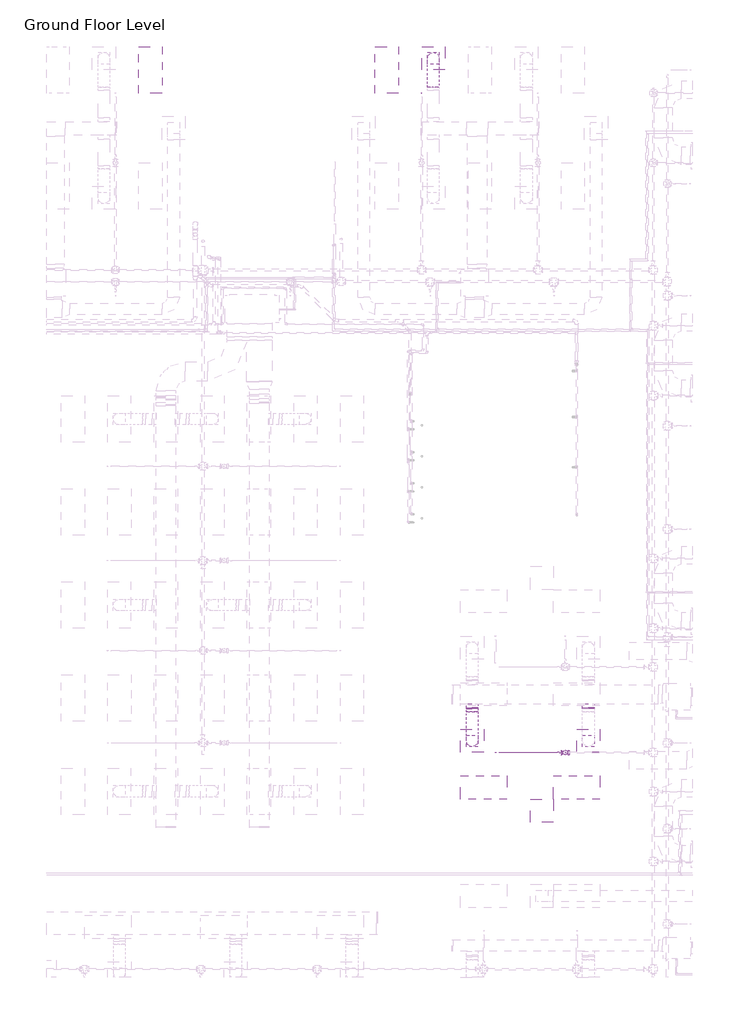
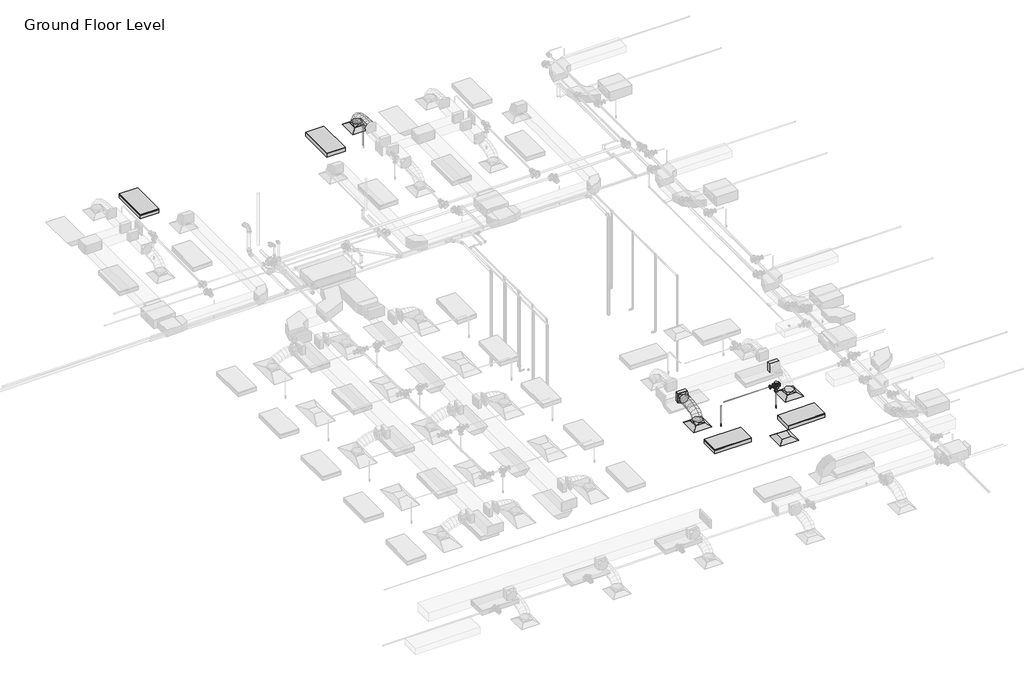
# One storey, part 59 of 74: 6 duct fittings, 4 air terminals, 4 duct segments, 4 light fixtures, 4 pipe segments, 3 pipe fittings, 2 fire suppression terminals.
"""IFC4 building model written with IfcOpenShell, lengths in millimetres."""

from ifc_helpers import new_model, si_unit, point, frame, frame_2d, origin, place, context, project, spatial, polyline, circle_curve, ellipse_curve, trimmed, segment, composite_curve, outline, extrude, transform, mapped, element, save
from ifc_brep_helpers import plane_surface, cylinder_surface, advanced_brep
from components import m_return_diffuser_600_x_600_face_300_x_300_connection_ff221211, m_rectangular_takeoff_standard_cb0ccb98, m_rectangular_to_round_transition_angle_45_degree_641efff0, m_sprinkler_dry_pendent_hosted_15_mm_dry_pendent_9bda8e11, m_troffer_light_parabolic_rectangular1_0600x1200mm_4_lamp_86473d4a, m_reducer_flanged_cs_class_150_standard_ccf252ad, m_tee_round_base_flanged_cs_class_150_standard_7e5987a1

model = new_model("IFC4")

# Units and contexts
model_context = context("Model", 3, world=origin())
ifc_project = project(units=[si_unit("LENGTHUNIT", "METRE", prefix="MILLI")], contexts=[model_context])

# Site, building, storey
site = spatial("IfcSite", under=ifc_project)
building = spatial("IfcBuilding", under=site)
storey = spatial("IfcBuildingStorey", under=building, Name="Ground Floor Level", Elevation=900.0)

# Air terminals
placement = place(None, origin())
m_return_diffuser_600_x_600_face_300_x_300_connection_shape = m_return_diffuser_600_x_600_face_300_x_300_connection_ff221211(model_context)
element("IfcAirTerminal", 1, ObjectType="M_Return Diffuser : 600 x 600 Face 300 x 300 Connection", at=placement, inside=storey, context=model_context, shape_type="MappedRepresentation", body=[
    mapped(m_return_diffuser_600_x_600_face_300_x_300_connection_shape, transform((2762.7672395, 1135.2153534, 3650.0), x_axis=(1.0, 0.0, 0.0), y_axis=(0.0, 1.0, 0.0), z_axis=(0.0, 0.0, 1.0))),
])
element("IfcAirTerminal", 2, ObjectType="M_Supply Diffuser : 600 x 600 Face 300 x 300 Connection", at=placement, inside=storey, context=model_context, shape_type="MappedRepresentation", body=[
    mapped(m_return_diffuser_600_x_600_face_300_x_300_connection_shape, transform((-37.2327605, 20535.2153534, 3650.0), x_axis=(1.0, 0.0, 0.0), y_axis=(0.0, 1.0, 0.0), z_axis=(0.0, 0.0, 1.0))),
])
element("IfcAirTerminal", 3, ObjectType="M_Supply Diffuser : 600 x 600 Face 300 x 300 Connection", at=placement, inside=storey, context=model_context, shape_type="MappedRepresentation", body=[
    mapped(m_return_diffuser_600_x_600_face_300_x_300_connection_shape, transform((962.7672395, 2935.2153534, 3650.0), x_axis=(1.0, 0.0, 0.0), y_axis=(0.0, 1.0, 0.0), z_axis=(0.0, 0.0, 1.0))),
])
element("IfcAirTerminal", 4, ObjectType="M_Supply Diffuser : 600 x 600 Face 300 x 300 Connection", at=placement, inside=storey, context=model_context, shape_type="MappedRepresentation", body=[
    mapped(m_return_diffuser_600_x_600_face_300_x_300_connection_shape, transform((3962.7672395, 2935.2153534, 3650.0), x_axis=(1.0, 0.0, 0.0), y_axis=(0.0, 1.0, 0.0), z_axis=(0.0, 0.0, 1.0))),
])

# Duct fittings
m_rectangular_takeoff_standard_shape = m_rectangular_takeoff_standard_cb0ccb98(model_context)
element("IfcDuctFitting", 5, ObjectType="M_Rectangular Takeoff : Standard", at=placement, inside=storey, context=model_context, shape_type="MappedRepresentation", body=[
    mapped(m_rectangular_takeoff_standard_shape, transform((962.7672395, 3885.0199167, 4099.9886676), x_axis=(0.0, -1.0, 0.0), y_axis=(-1.0, 0.0, 0.0), z_axis=(0.0, 0.0, -1.0))),
])
element("IfcDuctFitting", 6, ObjectType="M_Rectangular Takeoff : Standard", at=placement, inside=storey, context=model_context, shape_type="MappedRepresentation", body=[
    mapped(m_rectangular_takeoff_standard_shape, transform((3962.7672395, 3885.0199167, 4099.9957478), x_axis=(0.0, -1.0, 0.0), y_axis=(-1.0, 0.0, 0.0), z_axis=(0.0, 0.0, -1.0))),
])
m_rectangular_to_round_transition_angle_45_degree_shape = m_rectangular_to_round_transition_angle_45_degree_641efff0(model_context)
element("IfcDuctFitting", 7, ObjectType="M_Rectangular to Round Transition - Angle : 45 Degree", at=placement, inside=storey, context=model_context, shape_type="MappedRepresentation", body=[
    mapped(m_rectangular_to_round_transition_angle_45_degree_shape, transform((-37.2327605, 20535.2153534, 3751.6), x_axis=(0.0, 0.0, 1.0), y_axis=(-1.0, 0.0, 0.0), z_axis=(0.0, -1.0, 0.0))),
])
element("IfcDuctFitting", 8, ObjectType="M_Rectangular to Round Transition - Angle : 45 Degree", at=placement, inside=storey, context=model_context, shape_type="MappedRepresentation", body=[
    mapped(m_rectangular_to_round_transition_angle_45_degree_shape, transform((3962.7672395, 2935.2153534, 3751.6), x_axis=(0.0, 0.0, 1.0), y_axis=(-1.0, 0.0, 0.0), z_axis=(0.0, -1.0, 0.0))),
])
element("IfcDuctFitting", 9, ObjectType="M_Rectangular to Round Transition - Angle : 45 Degree", at=placement, inside=storey, context=model_context, shape_type="MappedRepresentation", body=[
    mapped(m_rectangular_to_round_transition_angle_45_degree_shape, transform((962.7672395, 2935.2153534, 3751.6), x_axis=(0.0, 0.0, 1.0), y_axis=(-1.0, 0.0, 0.0), z_axis=(0.0, -1.0, 0.0))),
])
element("IfcDuctFitting", 10, ObjectType="M_Rectangular to Round Transition - Angle : 45 Degree", at=placement, inside=storey, context=model_context, shape_type="MappedRepresentation", body=[
    mapped(m_rectangular_to_round_transition_angle_45_degree_shape, transform((962.7672395, 3762.562617, 4099.9886676), x_axis=(0.0, -1.0, 0.0), y_axis=(1.0, 0.0, 0.0), z_axis=(0.0, 0.0, 1.0))),
])

# Duct segments
element("IfcDuctSegment", 11, ObjectType="Flex - Round", at=placement, inside=storey, context=model_context, shape_type="AdvancedBrep", body=[
    advanced_brep(
    [(112.7672395, 20535.2153534, 3826.6), (-37.2327605, 20385.2153534, 3826.6), (-187.2327605, 20535.2153534, 3826.6), (-37.2327605, 20685.2153534, 3826.6), (112.7672395, 20535.2153534, 3857.9377711), (-37.2327605, 20385.2153534, 3832.2944759), (-187.2327605, 20535.2153534, 3857.9377711), (-37.2327605, 20685.2153534, 3883.5810662), (112.7672395, 20518.1993815, 3906.2505987), (-37.2327605, 20384.461492, 3834.4348871), (-187.2327605, 20518.1993815, 3906.2505987), (-37.2327605, 20651.937271, 3978.0663103), (112.7672395, 20471.0153939, 3968.7112481), (-37.2327605, 20366.8097377, 3857.8017132), (-187.2327605, 20471.0153939, 3968.7112481), (-37.2327605, 20575.2210501, 4079.620783), (112.7672395, 20399.4592831, 4016.0698216), (-37.2327605, 20330.5256105, 3881.8159377), (-187.2327605, 20399.4592831, 4016.0698216), (-37.2327605, 20468.3929557, 4150.3237055), (112.7672395, 20309.3269414, 4050.4141926), (-37.2327605, 20265.7665969, 3906.491959), (-187.2327605, 20309.3269414, 4050.4141926), (-37.2327605, 20352.8872859, 4194.3364261), (112.7672395, 20206.4142611, 4073.8322345), (-37.2327605, 20179.853734, 3926.0416493), (-187.2327605, 20206.4142611, 4073.8322345), (-37.2327605, 20232.9747882, 4221.6228196), (112.7672395, 20096.5171347, 4088.4118207), (-37.2327605, 20081.3665773, 3939.1075232), (-187.2327605, 20096.5171347, 4088.4118207), (-37.2327605, 20111.6676921, 4237.7161183), (112.7672395, 19985.4314545, 4096.2408248), (-37.2327605, 19977.9263947, 3946.3976942), (-187.2327605, 19985.4314545, 4096.2408248), (-37.2327605, 19992.9365143, 4246.0839553), (112.7672395, 19878.9531128, 4099.40712), (-37.2327605, 19876.2617774, 3949.4208461), (-187.2327605, 19878.9531128, 4099.40712), (-37.2327605, 19881.6444482, 4249.393394), (112.7672395, 19782.878002, 4099.9985799), (-37.2327605, 19783.8014181, 4249.9957376), (-187.2327605, 19782.878002, 4099.9985799), (-37.2327605, 19781.9545859, 3950.0014223)],
    [
        (0, 1, circle_curve(frame((-37.2327605, 20535.2153534, 3826.6), z_axis=(0.0, 0.0, -1.0), x_axis=(1.0, 0.0, 0.0)), 150.0)),
        (1, 2, circle_curve(frame((-37.2327605, 20535.2153534, 3826.6), z_axis=(0.0, 0.0, -1.0), x_axis=(1.0, 0.0, 0.0)), 150.0)),
        (2, 3, circle_curve(frame((-37.2327605, 20535.2153534, 3826.6), z_axis=(0.0, 0.0, -1.0), x_axis=(1.0, 0.0, 0.0)), 150.0)),
        (3, 0, circle_curve(frame((-37.2327605, 20535.2153534, 3826.6), z_axis=(0.0, 0.0, -1.0), x_axis=(1.0, 0.0, 0.0)), 150.0)),
        (0, 4),
        (4, 5, ellipse_curve(frame((-37.2327605, 20535.2153534, 3857.9377711), z_axis=(0.0, 0.1685106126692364, -0.9856998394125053), x_axis=(0.0, -0.9856998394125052, -0.16851061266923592)), 152.1761433, 150.0)),
        (5, 1),
        (5, 6, ellipse_curve(frame((-37.2327605, 20535.2153534, 3857.9377711), z_axis=(0.0, 0.1685106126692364, -0.9856998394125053), x_axis=(0.0, -0.9856998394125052, -0.16851061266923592)), 152.1761433, 150.0)),
        (6, 2),
        (6, 7, ellipse_curve(frame((-37.2327605, 20535.2153534, 3857.9377711), z_axis=(0.0, 0.1685106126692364, -0.9856998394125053), x_axis=(0.0, -0.9856998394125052, -0.16851061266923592)), 152.1761433, 150.0)),
        (7, 3),
        (7, 4, ellipse_curve(frame((-37.2327605, 20535.2153534, 3857.9377711), z_axis=(0.0, 0.1685106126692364, -0.9856998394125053), x_axis=(0.0, -0.9856998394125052, -0.16851061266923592)), 152.1761433, 150.0)),
        (4, 8),
        (8, 9, ellipse_curve(frame((-37.2327605, 20518.1993815, 3906.2505987), z_axis=(0.0, 0.4730934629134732, -0.8810122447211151), x_axis=(0.0, -0.8810122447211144, -0.47309346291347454)), 151.8002619, 150.0)),
        (9, 5),
        (9, 10, ellipse_curve(frame((-37.2327605, 20518.1993815, 3906.2505987), z_axis=(0.0, 0.4730934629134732, -0.8810122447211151), x_axis=(0.0, -0.8810122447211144, -0.47309346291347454)), 151.8002619, 150.0)),
        (10, 6),
        (10, 11, ellipse_curve(frame((-37.2327605, 20518.1993815, 3906.2505987), z_axis=(0.0, 0.4730934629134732, -0.8810122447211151), x_axis=(0.0, -0.8810122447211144, -0.47309346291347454)), 151.8002619, 150.0)),
        (11, 7),
        (11, 8, ellipse_curve(frame((-37.2327605, 20518.1993815, 3906.2505987), z_axis=(0.0, 0.4730934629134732, -0.8810122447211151), x_axis=(0.0, -0.8810122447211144, -0.47309346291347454)), 151.8002619, 150.0)),
        (8, 12),
        (12, 13, ellipse_curve(frame((-37.2327605, 20471.0153939, 3968.7112481), z_axis=(0.0, 0.7287893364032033, -0.6847379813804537), x_axis=(0.0, -0.6847379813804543, -0.7287893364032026)), 152.183257, 150.0)),
        (13, 9),
        (13, 14, ellipse_curve(frame((-37.2327605, 20471.0153939, 3968.7112481), z_axis=(0.0, 0.7287893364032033, -0.6847379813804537), x_axis=(0.0, -0.6847379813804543, -0.7287893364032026)), 152.183257, 150.0)),
        (14, 10),
        (14, 15, ellipse_curve(frame((-37.2327605, 20471.0153939, 3968.7112481), z_axis=(0.0, 0.7287893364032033, -0.6847379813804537), x_axis=(0.0, -0.6847379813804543, -0.7287893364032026)), 152.183257, 150.0)),
        (15, 11),
        (15, 12, ellipse_curve(frame((-37.2327605, 20471.0153939, 3968.7112481), z_axis=(0.0, 0.7287893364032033, -0.6847379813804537), x_axis=(0.0, -0.6847379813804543, -0.7287893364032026)), 152.183257, 150.0)),
        (12, 16),
        (16, 17, ellipse_curve(frame((-37.2327605, 20399.4592831, 4016.0698216), z_axis=(0.0, 0.8895872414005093, -0.4567653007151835), x_axis=(0.0, -0.45676530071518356, -0.8895872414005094)), 150.9170519, 150.0)),
        (17, 13),
        (17, 18, ellipse_curve(frame((-37.2327605, 20399.4592831, 4016.0698216), z_axis=(0.0, 0.8895872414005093, -0.4567653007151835), x_axis=(0.0, -0.45676530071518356, -0.8895872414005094)), 150.9170519, 150.0)),
        (18, 14),
        (18, 19, ellipse_curve(frame((-37.2327605, 20399.4592831, 4016.0698216), z_axis=(0.0, 0.8895872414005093, -0.4567653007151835), x_axis=(0.0, -0.45676530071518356, -0.8895872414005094)), 150.9170519, 150.0)),
        (19, 15),
        (19, 16, ellipse_curve(frame((-37.2327605, 20399.4592831, 4016.0698216), z_axis=(0.0, 0.8895872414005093, -0.4567653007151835), x_axis=(0.0, -0.45676530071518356, -0.8895872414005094)), 150.9170519, 150.0)),
        (16, 20),
        (20, 21, ellipse_curve(frame((-37.2327605, 20309.3269414, 4050.4141926), z_axis=(0.0, 0.9571211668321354, -0.2896878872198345), x_axis=(0.0, -0.2896878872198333, -0.9571211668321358)), 150.3699202, 150.0)),
        (21, 17),
        (21, 22, ellipse_curve(frame((-37.2327605, 20309.3269414, 4050.4141926), z_axis=(0.0, 0.9571211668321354, -0.2896878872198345), x_axis=(0.0, -0.2896878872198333, -0.9571211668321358)), 150.3699202, 150.0)),
        (22, 18),
        (22, 23, ellipse_curve(frame((-37.2327605, 20309.3269414, 4050.4141926), z_axis=(0.0, 0.9571211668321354, -0.2896878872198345), x_axis=(0.0, -0.2896878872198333, -0.9571211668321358)), 150.3699202, 150.0)),
        (23, 19),
        (23, 20, ellipse_curve(frame((-37.2327605, 20309.3269414, 4050.4141926), z_axis=(0.0, 0.9571211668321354, -0.2896878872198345), x_axis=(0.0, -0.2896878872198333, -0.9571211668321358)), 150.3699202, 150.0)),
        (20, 24),
        (24, 25, ellipse_curve(frame((-37.2327605, 20206.4142611, 4073.8322345), z_axis=(0.0, 0.9842317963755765, -0.17688349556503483), x_axis=(0.0, -0.1768834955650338, -0.9842317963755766)), 150.158312, 150.0)),
        (25, 21),
        (25, 26, ellipse_curve(frame((-37.2327605, 20206.4142611, 4073.8322345), z_axis=(0.0, 0.9842317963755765, -0.17688349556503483), x_axis=(0.0, -0.1768834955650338, -0.9842317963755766)), 150.158312, 150.0)),
        (26, 22),
        (26, 27, ellipse_curve(frame((-37.2327605, 20206.4142611, 4073.8322345), z_axis=(0.0, 0.9842317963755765, -0.17688349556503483), x_axis=(0.0, -0.1768834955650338, -0.9842317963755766)), 150.158312, 150.0)),
        (27, 23),
        (27, 24, ellipse_curve(frame((-37.2327605, 20206.4142611, 4073.8322345), z_axis=(0.0, 0.9842317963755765, -0.17688349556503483), x_axis=(0.0, -0.1768834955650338, -0.9842317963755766)), 150.158312, 150.0)),
        (24, 28),
        (28, 29, ellipse_curve(frame((-37.2327605, 20096.5171347, 4088.4118207), z_axis=(0.0, 0.9948909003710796, -0.10095591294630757), x_axis=(0.0, -0.10095591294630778, -0.9948909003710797)), 150.0710253, 150.0)),
        (29, 25),
        (29, 30, ellipse_curve(frame((-37.2327605, 20096.5171347, 4088.4118207), z_axis=(0.0, 0.9948909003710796, -0.10095591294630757), x_axis=(0.0, -0.10095591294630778, -0.9948909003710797)), 150.0710253, 150.0)),
        (30, 26),
        (30, 31, ellipse_curve(frame((-37.2327605, 20096.5171347, 4088.4118207), z_axis=(0.0, 0.9948909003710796, -0.10095591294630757), x_axis=(0.0, -0.10095591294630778, -0.9948909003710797)), 150.0710253, 150.0)),
        (31, 27),
        (31, 28, ellipse_curve(frame((-37.2327605, 20096.5171347, 4088.4118207), z_axis=(0.0, 0.9948909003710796, -0.10095591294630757), x_axis=(0.0, -0.10095591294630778, -0.9948909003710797)), 150.0710253, 150.0)),
        (28, 32),
        (32, 33, ellipse_curve(frame((-37.2327605, 19985.4314545, 4096.2408248), z_axis=(0.0, 0.9987480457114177, -0.05002340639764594), x_axis=(0.0, -0.05002340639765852, -0.9987480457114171)), 150.0309624, 150.0)),
        (33, 29),
        (33, 34, ellipse_curve(frame((-37.2327605, 19985.4314545, 4096.2408248), z_axis=(0.0, 0.9987480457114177, -0.05002340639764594), x_axis=(0.0, -0.05002340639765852, -0.9987480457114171)), 150.0309624, 150.0)),
        (34, 30),
        (34, 35, ellipse_curve(frame((-37.2327605, 19985.4314545, 4096.2408248), z_axis=(0.0, 0.9987480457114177, -0.05002340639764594), x_axis=(0.0, -0.05002340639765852, -0.9987480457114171)), 150.0309624, 150.0)),
        (35, 31),
        (35, 32, ellipse_curve(frame((-37.2327605, 19985.4314545, 4096.2408248), z_axis=(0.0, 0.9987480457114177, -0.05002340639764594), x_axis=(0.0, -0.05002340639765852, -0.9987480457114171)), 150.0309624, 150.0)),
        (32, 36),
        (36, 37, ellipse_curve(frame((-37.2327605, 19878.9531128, 4099.40712), z_axis=(0.0, 0.9998390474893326, -0.01794098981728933), x_axis=(0.0, -0.017940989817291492, -0.9998390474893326)), 150.0104185, 150.0)),
        (37, 33),
        (37, 38, ellipse_curve(frame((-37.2327605, 19878.9531128, 4099.40712), z_axis=(0.0, 0.9998390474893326, -0.01794098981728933), x_axis=(0.0, -0.017940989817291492, -0.9998390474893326)), 150.0104185, 150.0)),
        (38, 34),
        (38, 39, ellipse_curve(frame((-37.2327605, 19878.9531128, 4099.40712), z_axis=(0.0, 0.9998390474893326, -0.01794098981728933), x_axis=(0.0, -0.017940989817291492, -0.9998390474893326)), 150.0104185, 150.0)),
        (39, 35),
        (39, 36, ellipse_curve(frame((-37.2327605, 19878.9531128, 4099.40712), z_axis=(0.0, 0.9998390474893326, -0.01794098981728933), x_axis=(0.0, -0.017940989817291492, -0.9998390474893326)), 150.0104185, 150.0)),
        (40, 41, circle_curve(frame((-37.2327605, 19782.878002, 4099.9985799), z_axis=(0.0, -0.9999810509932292, 0.006156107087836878), x_axis=(1.0, 0.0, 0.0)), 150.0)),
        (41, 42, circle_curve(frame((-37.2327605, 19782.878002, 4099.9985799), z_axis=(0.0, -0.9999810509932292, 0.006156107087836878), x_axis=(1.0, 0.0, 0.0)), 150.0)),
        (42, 43, circle_curve(frame((-37.2327605, 19782.878002, 4099.9985799), z_axis=(0.0, -0.9999810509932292, 0.006156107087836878), x_axis=(1.0, 0.0, 0.0)), 150.0)),
        (43, 40, circle_curve(frame((-37.2327605, 19782.878002, 4099.9985799), z_axis=(0.0, -0.9999810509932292, 0.006156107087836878), x_axis=(1.0, 0.0, 0.0)), 150.0)),
        (36, 40),
        (43, 37),
        (42, 38),
        (41, 39),
    ],
    [
        plane_surface(frame((-37.2327605, 20385.2153534, 3826.6), z_axis=(0.0, 0.0, -1.0), x_axis=(1.0, 0.0, 0.0))),
        cylinder_surface(frame((-37.2327605, 20535.2153534, 3826.6), z_axis=(0.0, 0.0, -1.0), x_axis=(1.0, 0.0, 0.0)), 150.0),
        cylinder_surface(frame((-37.2327605, 20535.2153534, 3857.9377711), z_axis=(0.0, 0.33220176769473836, -0.9432083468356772), x_axis=(1.0, 0.0, 0.0)), 150.0),
        cylinder_surface(frame((-37.2327605, 20518.1993815, 3906.2505987), z_axis=(0.0, 0.6027639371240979, -0.7979195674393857), x_axis=(1.0, 0.0, 0.0)), 150.0),
        cylinder_surface(frame((-37.2327605, 20471.0153939, 3968.7112481), z_axis=(0.0, 0.8339039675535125, -0.551909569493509), x_axis=(1.0, 0.0, 0.0)), 150.0),
        cylinder_surface(frame((-37.2327605, 20399.4592831, 4016.0698216), z_axis=(0.0, 0.934459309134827, -0.35606993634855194), x_axis=(1.0, 0.0, 0.0)), 150.0),
        cylinder_surface(frame((-37.2327605, 20309.3269414, 4050.4141926), z_axis=(0.0, 0.9750738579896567, -0.22188053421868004), x_axis=(1.0, 0.0, 0.0)), 150.0),
        cylinder_surface(frame((-37.2327605, 20206.4142611, 4073.8322345), z_axis=(0.0, 0.9913143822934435, -0.13151348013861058), x_axis=(1.0, 0.0, 0.0)), 150.0),
        cylinder_surface(frame((-37.2327605, 20096.5171347, 4088.4118207), z_axis=(0.0, 0.997525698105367, -0.07030278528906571), x_axis=(1.0, 0.0, 0.0)), 150.0),
        cylinder_surface(frame((-37.2327605, 19985.4314545, 4096.2408248), z_axis=(0.0, 0.9995581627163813, -0.029723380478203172), x_axis=(1.0, 0.0, 0.0)), 150.0),
        plane_surface(frame((-37.2327605, 19781.9545859, 3950.0014223), z_axis=(0.0, -0.9999810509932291, 0.006156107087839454), x_axis=(1.0, 0.0, 0.0))),
        cylinder_surface(frame((-37.2327605, 19878.9531128, 4099.40712), z_axis=(0.0, 0.9999810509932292, -0.006156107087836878), x_axis=(1.0, 0.0, 0.0)), 150.0),
    ],
    [
        (0, [[1, 2, 3, 4]]),
        (1, [[-1, 5, 6, 7]]),
        (1, [[-2, -7, 8, 9]]),
        (1, [[-3, -9, 10, 11]]),
        (1, [[-4, -11, 12, -5]]),
        (2, [[-6, 13, 14, 15]]),
        (2, [[-8, -15, 16, 17]]),
        (2, [[-10, -17, 18, 19]]),
        (2, [[-12, -19, 20, -13]]),
        (3, [[-14, 21, 22, 23]]),
        (3, [[-16, -23, 24, 25]]),
        (3, [[-18, -25, 26, 27]]),
        (3, [[-20, -27, 28, -21]]),
        (4, [[-22, 29, 30, 31]]),
        (4, [[-24, -31, 32, 33]]),
        (4, [[-26, -33, 34, 35]]),
        (4, [[-28, -35, 36, -29]]),
        (5, [[-30, 37, 38, 39]]),
        (5, [[-32, -39, 40, 41]]),
        (5, [[-34, -41, 42, 43]]),
        (5, [[-36, -43, 44, -37]]),
        (6, [[-38, 45, 46, 47]]),
        (6, [[-40, -47, 48, 49]]),
        (6, [[-42, -49, 50, 51]]),
        (6, [[-44, -51, 52, -45]]),
        (7, [[-46, 53, 54, 55]]),
        (7, [[-48, -55, 56, 57]]),
        (7, [[-50, -57, 58, 59]]),
        (7, [[-52, -59, 60, -53]]),
        (8, [[-54, 61, 62, 63]]),
        (8, [[-56, -63, 64, 65]]),
        (8, [[-58, -65, 66, 67]]),
        (8, [[-60, -67, 68, -61]]),
        (9, [[-62, 69, 70, 71]]),
        (9, [[-64, -71, 72, 73]]),
        (9, [[-66, -73, 74, 75]]),
        (9, [[-68, -75, 76, -69]]),
        (10, [[77, 78, 79, 80]]),
        (11, [[-70, 81, -80, 82]]),
        (11, [[-72, -82, -79, 83]]),
        (11, [[-74, -83, -78, 84]]),
        (11, [[-76, -84, -77, -81]]),
    ],
),
])
element("IfcDuctSegment", 12, ObjectType="Flex - Round", at=placement, inside=storey, context=model_context, shape_type="AdvancedBrep", body=[
    advanced_brep(
    [(1112.7672395, 2935.2153534, 3826.6), (962.7672395, 2785.2153534, 3826.6), (812.7672395, 2935.2153534, 3826.6), (962.7672395, 3085.2153534, 3826.6), (1112.7672395, 2935.2153534, 3857.9381871), (962.7672395, 2785.2153534, 3883.5819907), (812.7672395, 2935.2153534, 3857.9381871), (962.7672395, 3085.2153534, 3832.2943835), (1112.7672395, 2952.2316002, 3906.2507795), (962.7672395, 2818.4943349, 3978.0678013), (812.7672395, 2952.2316002, 3906.2507795), (962.7672395, 3085.9688654, 3834.4337577), (1112.7672395, 2999.416336, 3968.7107945), (962.7672395, 2895.2123764, 4079.622042), (812.7672395, 2999.416336, 3968.7107945), (962.7672395, 3103.6202956, 3857.7995469), (1112.7672395, 3070.9735542, 4016.0681304), (962.7672395, 3002.0425552, 4150.3234022), (812.7672395, 3070.9735542, 4016.0681304), (962.7672395, 3139.9045533, 3881.8128585), (1112.7672395, 3161.1072481, 4050.4108726), (962.7672395, 3117.549826, 4194.3339853), (812.7672395, 3161.1072481, 4050.4108726), (962.7672395, 3204.6646702, 3906.4877598), (1112.7672395, 3264.0214108, 4073.8271066), (962.7672395, 3237.463654, 4221.618182), (812.7672395, 3264.0214108, 4073.8271066), (962.7672395, 3290.5791677, 3926.0360311), (1112.7672395, 3373.9200359, 4088.4049176), (962.7672395, 3358.7718863, 4237.7094524), (812.7672395, 3373.9200359, 4088.4049176), (962.7672395, 3389.0681854, 3939.1003829), (1112.7672395, 3485.0071164, 4096.2323912), (962.7672395, 3477.5039298, 4246.0756092), (812.7672395, 3485.0071164, 4096.2323912), (962.7672395, 3492.5103029, 3946.3891733), (1112.7672395, 3591.4866457, 4099.3976128), (962.7672395, 3588.796411, 4249.383901), (812.7672395, 3591.4866457, 4099.3976128), (962.7672395, 3594.1768803, 3949.4113245), (1112.7672395, 3687.562617, 4099.9886676), (962.7672395, 3688.4853925, 3949.991506), (812.7672395, 3687.562617, 4099.9886676), (962.7672395, 3686.6398415, 4249.9858292)],
    [
        (0, 1, circle_curve(frame((962.7672395, 2935.2153534, 3826.6), z_axis=(0.0, 0.0, -1.0), x_axis=(1.0, 0.0, 0.0)), 150.0)),
        (1, 2, circle_curve(frame((962.7672395, 2935.2153534, 3826.6), z_axis=(0.0, 0.0, -1.0), x_axis=(1.0, 0.0, 0.0)), 150.0)),
        (2, 3, circle_curve(frame((962.7672395, 2935.2153534, 3826.6), z_axis=(0.0, 0.0, -1.0), x_axis=(1.0, 0.0, 0.0)), 150.0)),
        (3, 0, circle_curve(frame((962.7672395, 2935.2153534, 3826.6), z_axis=(0.0, 0.0, -1.0), x_axis=(1.0, 0.0, 0.0)), 150.0)),
        (0, 4),
        (4, 5, ellipse_curve(frame((962.7672395, 2935.2153534, 3857.9381871), z_axis=(0.0, -0.16851385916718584, -0.9856992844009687), x_axis=(0.0, 0.9856992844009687, -0.16851385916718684)), 152.176229, 150.0)),
        (5, 1),
        (5, 6, ellipse_curve(frame((962.7672395, 2935.2153534, 3857.9381871), z_axis=(0.0, -0.16851385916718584, -0.9856992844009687), x_axis=(0.0, 0.9856992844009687, -0.16851385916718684)), 152.176229, 150.0)),
        (6, 2),
        (6, 7, ellipse_curve(frame((962.7672395, 2935.2153534, 3857.9381871), z_axis=(0.0, -0.16851385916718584, -0.9856992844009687), x_axis=(0.0, 0.9856992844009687, -0.16851385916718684)), 152.176229, 150.0)),
        (7, 3),
        (7, 4, ellipse_curve(frame((962.7672395, 2935.2153534, 3857.9381871), z_axis=(0.0, -0.16851385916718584, -0.9856992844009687), x_axis=(0.0, 0.9856992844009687, -0.16851385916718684)), 152.176229, 150.0)),
        (4, 8),
        (8, 9, ellipse_curve(frame((962.7672395, 2952.2316002, 3906.2507795), z_axis=(0.0, -0.47310187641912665, -0.8810077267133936), x_axis=(0.0, 0.881007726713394, -0.47310187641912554)), 151.8003318, 150.0)),
        (9, 5),
        (9, 10, ellipse_curve(frame((962.7672395, 2952.2316002, 3906.2507795), z_axis=(0.0, -0.47310187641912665, -0.8810077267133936), x_axis=(0.0, 0.881007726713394, -0.47310187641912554)), 151.8003318, 150.0)),
        (10, 6),
        (10, 11, ellipse_curve(frame((962.7672395, 2952.2316002, 3906.2507795), z_axis=(0.0, -0.47310187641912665, -0.8810077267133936), x_axis=(0.0, 0.881007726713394, -0.47310187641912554)), 151.8003318, 150.0)),
        (11, 7),
        (11, 8, ellipse_curve(frame((962.7672395, 2952.2316002, 3906.2507795), z_axis=(0.0, -0.47310187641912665, -0.8810077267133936), x_axis=(0.0, 0.881007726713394, -0.47310187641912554)), 151.8003318, 150.0)),
        (8, 12),
        (12, 13, ellipse_curve(frame((962.7672395, 2999.416336, 3968.7107945), z_axis=(0.0, -0.7288001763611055, -0.6847264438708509), x_axis=(0.0, 0.6847264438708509, -0.7288001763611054)), 152.1833434, 150.0)),
        (13, 9),
        (13, 14, ellipse_curve(frame((962.7672395, 2999.416336, 3968.7107945), z_axis=(0.0, -0.7288001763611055, -0.6847264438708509), x_axis=(0.0, 0.6847264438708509, -0.7288001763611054)), 152.1833434, 150.0)),
        (14, 10),
        (14, 15, ellipse_curve(frame((962.7672395, 2999.416336, 3968.7107945), z_axis=(0.0, -0.7288001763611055, -0.6847264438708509), x_axis=(0.0, 0.6847264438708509, -0.7288001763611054)), 152.1833434, 150.0)),
        (15, 11),
        (15, 12, ellipse_curve(frame((962.7672395, 2999.416336, 3968.7107945), z_axis=(0.0, -0.7288001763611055, -0.6847264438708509), x_axis=(0.0, 0.6847264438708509, -0.7288001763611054)), 152.1833434, 150.0)),
        (12, 16),
        (16, 17, ellipse_curve(frame((962.7672395, 3070.9735542, 4016.0681304), z_axis=(0.0, -0.8895963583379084, -0.45674754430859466), x_axis=(0.0, 0.4567475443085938, -0.8895963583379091)), 150.9170655, 150.0)),
        (17, 13),
        (17, 18, ellipse_curve(frame((962.7672395, 3070.9735542, 4016.0681304), z_axis=(0.0, -0.8895963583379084, -0.45674754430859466), x_axis=(0.0, 0.4567475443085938, -0.8895963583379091)), 150.9170655, 150.0)),
        (18, 14),
        (18, 19, ellipse_curve(frame((962.7672395, 3070.9735542, 4016.0681304), z_axis=(0.0, -0.8895963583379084, -0.45674754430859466), x_axis=(0.0, 0.4567475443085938, -0.8895963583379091)), 150.9170655, 150.0)),
        (19, 15),
        (19, 16, ellipse_curve(frame((962.7672395, 3070.9735542, 4016.0681304), z_axis=(0.0, -0.8895963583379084, -0.45674754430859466), x_axis=(0.0, 0.4567475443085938, -0.8895963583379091)), 150.9170655, 150.0)),
        (16, 20),
        (20, 21, ellipse_curve(frame((962.7672395, 3161.1072481, 4050.4108726), z_axis=(0.0, -0.9571270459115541, -0.2896684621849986), x_axis=(0.0, 0.2896684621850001, -0.9571270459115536)), 150.3699152, 150.0)),
        (21, 17),
        (21, 22, ellipse_curve(frame((962.7672395, 3161.1072481, 4050.4108726), z_axis=(0.0, -0.9571270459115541, -0.2896684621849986), x_axis=(0.0, 0.2896684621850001, -0.9571270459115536)), 150.3699152, 150.0)),
        (22, 18),
        (22, 23, ellipse_curve(frame((962.7672395, 3161.1072481, 4050.4108726), z_axis=(0.0, -0.9571270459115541, -0.2896684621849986), x_axis=(0.0, 0.2896684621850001, -0.9571270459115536)), 150.3699152, 150.0)),
        (23, 19),
        (23, 20, ellipse_curve(frame((962.7672395, 3161.1072481, 4050.4108726), z_axis=(0.0, -0.9571270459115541, -0.2896684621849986), x_axis=(0.0, 0.2896684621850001, -0.9571270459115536)), 150.3699152, 150.0)),
        (20, 24),
        (24, 25, ellipse_curve(frame((962.7672395, 3264.0214108, 4073.8271066), z_axis=(0.0, -0.984235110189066, -0.1768650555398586), x_axis=(0.0, 0.1768650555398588, -0.984235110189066)), 150.1583045, 150.0)),
        (25, 21),
        (25, 26, ellipse_curve(frame((962.7672395, 3264.0214108, 4073.8271066), z_axis=(0.0, -0.984235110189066, -0.1768650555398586), x_axis=(0.0, 0.1768650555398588, -0.984235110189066)), 150.1583045, 150.0)),
        (26, 22),
        (26, 27, ellipse_curve(frame((962.7672395, 3264.0214108, 4073.8271066), z_axis=(0.0, -0.984235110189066, -0.1768650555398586), x_axis=(0.0, 0.1768650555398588, -0.984235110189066)), 150.1583045, 150.0)),
        (27, 23),
        (27, 24, ellipse_curve(frame((962.7672395, 3264.0214108, 4073.8271066), z_axis=(0.0, -0.984235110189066, -0.1768650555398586), x_axis=(0.0, 0.1768650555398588, -0.984235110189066)), 150.1583045, 150.0)),
        (24, 28),
        (28, 29, ellipse_curve(frame((962.7672395, 3373.9200359, 4088.4049176), z_axis=(0.0, -0.9948925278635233, -0.10093987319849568), x_axis=(0.0, 0.10093987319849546, -0.9948925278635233)), 150.0710183, 150.0)),
        (29, 25),
        (29, 30, ellipse_curve(frame((962.7672395, 3373.9200359, 4088.4049176), z_axis=(0.0, -0.9948925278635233, -0.10093987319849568), x_axis=(0.0, 0.10093987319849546, -0.9948925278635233)), 150.0710183, 150.0)),
        (30, 26),
        (30, 31, ellipse_curve(frame((962.7672395, 3373.9200359, 4088.4049176), z_axis=(0.0, -0.9948925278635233, -0.10093987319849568), x_axis=(0.0, 0.10093987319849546, -0.9948925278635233)), 150.0710183, 150.0)),
        (31, 27),
        (31, 28, ellipse_curve(frame((962.7672395, 3373.9200359, 4088.4049176), z_axis=(0.0, -0.9948925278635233, -0.10093987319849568), x_axis=(0.0, 0.10093987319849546, -0.9948925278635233)), 150.0710183, 150.0)),
        (28, 32),
        (32, 33, ellipse_curve(frame((962.7672395, 3485.0071164, 4096.2323912), z_axis=(0.0, -0.9987486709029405, -0.050010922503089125), x_axis=(0.0, 0.05001092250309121, -0.9987486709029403)), 150.0309561, 150.0)),
        (33, 29),
        (33, 34, ellipse_curve(frame((962.7672395, 3485.0071164, 4096.2323912), z_axis=(0.0, -0.9987486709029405, -0.050010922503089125), x_axis=(0.0, 0.05001092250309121, -0.9987486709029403)), 150.0309561, 150.0)),
        (34, 30),
        (34, 35, ellipse_curve(frame((962.7672395, 3485.0071164, 4096.2323912), z_axis=(0.0, -0.9987486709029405, -0.050010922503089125), x_axis=(0.0, 0.05001092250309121, -0.9987486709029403)), 150.0309561, 150.0)),
        (35, 31),
        (35, 32, ellipse_curve(frame((962.7672395, 3485.0071164, 4096.2323912), z_axis=(0.0, -0.9987486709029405, -0.050010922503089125), x_axis=(0.0, 0.05001092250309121, -0.9987486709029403)), 150.0309561, 150.0)),
        (32, 36),
        (36, 37, ellipse_curve(frame((962.7672395, 3591.4866457, 4099.3976128), z_axis=(0.0, -0.9998391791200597, -0.017933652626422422), x_axis=(0.0, 0.01793365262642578, -0.9998391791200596)), 150.0104131, 150.0)),
        (37, 33),
        (37, 38, ellipse_curve(frame((962.7672395, 3591.4866457, 4099.3976128), z_axis=(0.0, -0.9998391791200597, -0.017933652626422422), x_axis=(0.0, 0.01793365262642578, -0.9998391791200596)), 150.0104131, 150.0)),
        (38, 34),
        (38, 39, ellipse_curve(frame((962.7672395, 3591.4866457, 4099.3976128), z_axis=(0.0, -0.9998391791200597, -0.017933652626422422), x_axis=(0.0, 0.01793365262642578, -0.9998391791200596)), 150.0104131, 150.0)),
        (39, 35),
        (39, 36, ellipse_curve(frame((962.7672395, 3591.4866457, 4099.3976128), z_axis=(0.0, -0.9998391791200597, -0.017933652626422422), x_axis=(0.0, 0.01793365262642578, -0.9998391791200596)), 150.0104131, 150.0)),
        (40, 41, circle_curve(frame((962.7672395, 3687.562617, 4099.9886676), z_axis=(0.0, 0.9999810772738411, 0.006151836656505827), x_axis=(1.0, 0.0, 0.0)), 150.0)),
        (41, 42, circle_curve(frame((962.7672395, 3687.562617, 4099.9886676), z_axis=(0.0, 0.9999810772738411, 0.006151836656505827), x_axis=(1.0, 0.0, 0.0)), 150.0)),
        (42, 43, circle_curve(frame((962.7672395, 3687.562617, 4099.9886676), z_axis=(0.0, 0.9999810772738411, 0.006151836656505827), x_axis=(1.0, 0.0, 0.0)), 150.0)),
        (43, 40, circle_curve(frame((962.7672395, 3687.562617, 4099.9886676), z_axis=(0.0, 0.9999810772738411, 0.006151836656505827), x_axis=(1.0, 0.0, 0.0)), 150.0)),
        (36, 40),
        (43, 37),
        (42, 38),
        (41, 39),
    ],
    [
        plane_surface(frame((962.7672395, 2785.2153534, 3826.6), z_axis=(0.0, 0.0, -1.0), x_axis=(1.0, 0.0, 0.0))),
        cylinder_surface(frame((962.7672395, 2935.2153534, 3826.6), z_axis=(0.0, 0.0, -1.0), x_axis=(1.0, 0.0, 0.0)), 150.0),
        cylinder_surface(frame((962.7672395, 2935.2153534, 3857.9381871), z_axis=(0.0, -0.33220798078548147, -0.9432061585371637), x_axis=(1.0, 0.0, 0.0)), 150.0),
        cylinder_surface(frame((962.7672395, 2952.2316002, 3906.2507795), z_axis=(0.0, -0.6027739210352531, -0.7979120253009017), x_axis=(1.0, 0.0, 0.0)), 150.0),
        cylinder_surface(frame((962.7672395, 2999.416336, 3968.7107945), z_axis=(0.0, -0.83391453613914, -0.5518936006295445), x_axis=(1.0, 0.0, 0.0)), 150.0),
        cylinder_surface(frame((962.7672395, 3070.9735542, 4016.0681304), z_axis=(0.0, -0.9344667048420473, -0.35605052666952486), x_axis=(1.0, 0.0, 0.0)), 150.0),
        cylinder_surface(frame((962.7672395, 3161.1072481, 4050.4108726), z_axis=(0.0, -0.975078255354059, -0.22186120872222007), x_axis=(1.0, 0.0, 0.0)), 150.0),
        cylinder_surface(frame((962.7672395, 3264.0214108, 4073.8271066), z_axis=(0.0, -0.9913167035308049, -0.1314959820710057), x_axis=(1.0, 0.0, 0.0)), 150.0),
        cylinder_surface(frame((962.7672395, 3373.9200359, 4088.4049176), z_axis=(0.0, -0.9975267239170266, -0.07028822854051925), x_axis=(1.0, 0.0, 0.0)), 150.0),
        cylinder_surface(frame((962.7672395, 3485.0071164, 4096.2323912), z_axis=(0.0, -0.9995584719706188, -0.029712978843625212), x_axis=(1.0, 0.0, 0.0)), 150.0),
        plane_surface(frame((962.7672395, 3686.6398415, 4249.9858292), z_axis=(0.0, 0.9999810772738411, 0.00615183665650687), x_axis=(1.0, 0.0, 0.0))),
        cylinder_surface(frame((962.7672395, 3591.4866457, 4099.3976128), z_axis=(0.0, -0.9999810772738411, -0.006151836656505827), x_axis=(1.0, 0.0, 0.0)), 150.0),
    ],
    [
        (0, [[1, 2, 3, 4]]),
        (1, [[-1, 5, 6, 7]]),
        (1, [[-2, -7, 8, 9]]),
        (1, [[-3, -9, 10, 11]]),
        (1, [[-4, -11, 12, -5]]),
        (2, [[-6, 13, 14, 15]]),
        (2, [[-8, -15, 16, 17]]),
        (2, [[-10, -17, 18, 19]]),
        (2, [[-12, -19, 20, -13]]),
        (3, [[-14, 21, 22, 23]]),
        (3, [[-16, -23, 24, 25]]),
        (3, [[-18, -25, 26, 27]]),
        (3, [[-20, -27, 28, -21]]),
        (4, [[-22, 29, 30, 31]]),
        (4, [[-24, -31, 32, 33]]),
        (4, [[-26, -33, 34, 35]]),
        (4, [[-28, -35, 36, -29]]),
        (5, [[-30, 37, 38, 39]]),
        (5, [[-32, -39, 40, 41]]),
        (5, [[-34, -41, 42, 43]]),
        (5, [[-36, -43, 44, -37]]),
        (6, [[-38, 45, 46, 47]]),
        (6, [[-40, -47, 48, 49]]),
        (6, [[-42, -49, 50, 51]]),
        (6, [[-44, -51, 52, -45]]),
        (7, [[-46, 53, 54, 55]]),
        (7, [[-48, -55, 56, 57]]),
        (7, [[-50, -57, 58, 59]]),
        (7, [[-52, -59, 60, -53]]),
        (8, [[-54, 61, 62, 63]]),
        (8, [[-56, -63, 64, 65]]),
        (8, [[-58, -65, 66, 67]]),
        (8, [[-60, -67, 68, -61]]),
        (9, [[-62, 69, 70, 71]]),
        (9, [[-64, -71, 72, 73]]),
        (9, [[-66, -73, 74, 75]]),
        (9, [[-68, -75, 76, -69]]),
        (10, [[77, 78, 79, 80]]),
        (11, [[-70, 81, -80, 82]]),
        (11, [[-72, -82, -79, 83]]),
        (11, [[-74, -83, -78, 84]]),
        (11, [[-76, -84, -77, -81]]),
    ],
),
])
element("IfcDuctSegment", 13, ObjectType="Radius Elbows / Taps", at=placement, inside=storey, context=model_context, shape_type="SweptSolid", body=[
    extrude(outline(polyline([(812.7672395, 3783.4199167), (1112.7672395, 3783.4199167), (1112.7672395, 3762.562617), (812.7672395, 3762.562617), (812.7672395, 3783.4199167)])), frame((0.0, 0.0, 3949.9886676), z_axis=(0.0, 0.0, 1.0), x_axis=(1.0, 0.0, 0.0)), (0.0, 0.0, 1.0), 300.0),
])
element("IfcDuctSegment", 14, ObjectType="Radius Elbows / Taps", at=placement, inside=storey, context=model_context, shape_type="SweptSolid", body=[
    extrude(outline(polyline([(3812.7672395, 3783.4199167), (4112.7672395, 3783.4199167), (4112.7672395, 3762.5555369), (3812.7672395, 3762.5555369), (3812.7672395, 3783.4199167)])), frame((0.0, 0.0, 3949.9957478), z_axis=(0.0, 0.0, 1.0), x_axis=(1.0, 0.0, 0.0)), (0.0, 0.0, 1.0), 300.0),
])

# Fire suppression terminals
m_sprinkler_dry_pendent_hosted_15_mm_dry_pendent_shape = m_sprinkler_dry_pendent_hosted_15_mm_dry_pendent_9bda8e11(model_context)
element("IfcFireSuppressionTerminal", 15, ObjectType="M_Sprinkler - Dry - Pendent - Hosted : 15 mm Dry Pendent", at=placement, inside=storey, context=model_context, shape_type="MappedRepresentation", body=[
    mapped(m_sprinkler_dry_pendent_hosted_15_mm_dry_pendent_shape, transform((3367.3772563, 2635.2153534, 3650.0), x_axis=(1.0, 0.0, 0.0), y_axis=(0.0, -1.0, 0.0), z_axis=(0.0, 0.0, -1.0))),
])
element("IfcFireSuppressionTerminal", 16, ObjectType="M_Sprinkler - Dry - Pendent - Hosted : 15 mm Dry Pendent", at=placement, inside=storey, context=model_context, shape_type="MappedRepresentation", body=[
    mapped(m_sprinkler_dry_pendent_hosted_15_mm_dry_pendent_shape, transform((1565.5763283, 2635.2153534, 3650.0), x_axis=(1.0, 0.0, 0.0), y_axis=(0.0, -1.0, 0.0), z_axis=(0.0, 0.0, -1.0))),
])

# Light fixtures
m_troffer_light_parabolic_rectangular1_0600x1200mm_4_lamp_shape = m_troffer_light_parabolic_rectangular1_0600x1200mm_4_lamp_86473d4a(model_context)
element("IfcLightFixture", 17, ObjectType="M_Troffer Light - Parabolic Rectangular1 : 0600x1200mm(4 Lamp) - 277V 2", at=placement, inside=storey, context=model_context, shape_type="MappedRepresentation", body=[
    mapped(m_troffer_light_parabolic_rectangular1_0600x1200mm_4_lamp_shape, transform((-7396.6986926, 20253.918855, 3650.0), x_axis=(0.0, 1.0, 0.0), y_axis=(-1.0, 0.0, 0.0), z_axis=(0.0, 0.0, 1.0))),
])
element("IfcLightFixture", 18, ObjectType="M_Troffer Light - Parabolic Rectangular1 : 0600x1200mm(4 Lamp) - 277V 2", at=placement, inside=storey, context=model_context, shape_type="MappedRepresentation", body=[
    mapped(m_troffer_light_parabolic_rectangular1_0600x1200mm_4_lamp_shape, transform((-1296.6986926, 20253.918855, 3650.0), x_axis=(0.0, 1.0, 0.0), y_axis=(-1.0, 0.0, 0.0), z_axis=(0.0, 0.0, 1.0))),
])
element("IfcLightFixture", 19, ObjectType="M_Troffer Light - Parabolic Rectangular1 : 0600x1200mm(4 Lamp) - 277V 2", at=placement, inside=storey, context=model_context, shape_type="MappedRepresentation", body=[
    mapped(m_troffer_light_parabolic_rectangular1_0600x1200mm_4_lamp_shape, transform((1281.4707411, 1794.6812855, 3650.0), x_axis=(1.0, 0.0, 0.0), y_axis=(0.0, 1.0, 0.0), z_axis=(0.0, 0.0, 1.0))),
])
element("IfcLightFixture", 20, ObjectType="M_Troffer Light - Parabolic Rectangular1 : 0600x1200mm(4 Lamp) - 277V 2", at=placement, inside=storey, context=model_context, shape_type="MappedRepresentation", body=[
    mapped(m_troffer_light_parabolic_rectangular1_0600x1200mm_4_lamp_shape, transform((3681.4707411, 1794.6812855, 3650.0), x_axis=(1.0, 0.0, 0.0), y_axis=(0.0, 1.0, 0.0), z_axis=(0.0, 0.0, 1.0))),
])

# Pipe fittings
m_reducer_flanged_cs_class_150_standard_shape = m_reducer_flanged_cs_class_150_standard_ccf252ad(model_context)
element("IfcPipeFitting", 21, ObjectType="M_Reducer - Flanged - CS - Class 150 : Standard", at=placement, inside=storey, context=model_context, shape_type="MappedRepresentation", body=[
    mapped(m_reducer_flanged_cs_class_150_standard_shape, transform((3266.6686625, 2635.2153534, 4360.0), x_axis=(-1.0, 0.0, 0.0), y_axis=(0.0, 0.0, 1.0), z_axis=(0.0, 1.0, 0.0))),
])
element("IfcPipeFitting", 22, ObjectType="M_Reducer - Flanged - CS - Class 150 : Standard", at=placement, inside=storey, context=model_context, shape_type="MappedRepresentation", body=[
    mapped(m_reducer_flanged_cs_class_150_standard_shape, transform((3367.3772563, 2635.2153534, 4259.2914062), x_axis=(0.0, 0.0, -1.0), y_axis=(-1.0, 0.0, 0.0), z_axis=(0.0, 1.0, 0.0))),
])
m_tee_round_base_flanged_cs_class_150_standard_shape = m_tee_round_base_flanged_cs_class_150_standard_7e5987a1(model_context)
element("IfcPipeFitting", 23, ObjectType="M_Tee Round Base - Flanged - CS - Class 150 : Standard", at=placement, inside=storey, context=model_context, shape_type="MappedRepresentation", body=[
    mapped(m_tee_round_base_flanged_cs_class_150_standard_shape, transform((3367.3772563, 2635.2153534, 4360.0), x_axis=(-1.0, 0.0, 0.0), y_axis=(0.0, 0.0, 1.0), z_axis=(0.0, 1.0, 0.0))),
])

# Pipe segments
element("IfcPipeSegment", 24, ObjectType="Steel flanged", at=placement, inside=storey, context=model_context, shape_type="SweptSolid", body=[
    extrude(outline(composite_curve([segment(trimmed(circle_curve(frame_2d((-337.2327605, 19635.2153534)), 10.668), [point((-347.9007605, 19635.2153534))], [point((-337.2327605, 19645.8833534))], False, "CARTESIAN"), True, "CONTINUOUS"), segment(trimmed(circle_curve(frame_2d((-337.2327605, 19635.2153534)), 10.668), [point((-337.2327605, 19645.8833534))], [point((-326.5647605, 19635.2153534))], False, "CARTESIAN"), True, "CONTINUOUS"), segment(trimmed(circle_curve(frame_2d((-337.2327605, 19635.2153534)), 10.668), [point((-326.5647605, 19635.2153534))], [point((-337.2327605, 19624.5473534))], False, "CARTESIAN"), True, "CONTINUOUS"), segment(trimmed(circle_curve(frame_2d((-337.2327605, 19635.2153534)), 10.668), [point((-337.2327605, 19624.5473534))], [point((-347.9007605, 19635.2153534))], False, "CARTESIAN"), True, "CONTINUOUS")], self_intersect=False)), frame((0.0, 0.0, 3650.0), z_axis=(0.0, 0.0, 1.0), x_axis=(1.0, 0.0, 0.0)), (0.0, 0.0, 1.0), 616.9914063),
])
element("IfcPipeSegment", 25, ObjectType="Steel flanged", at=placement, inside=storey, context=model_context, shape_type="SweptSolid", body=[
    extrude(outline(composite_curve([segment(trimmed(circle_curve(frame_2d((1565.5763283, 2635.2153534)), 10.668), [point((1554.9083283, 2635.2153534))], [point((1565.5763283, 2645.8833534))], False, "CARTESIAN"), True, "CONTINUOUS"), segment(trimmed(circle_curve(frame_2d((1565.5763283, 2635.2153534)), 10.668), [point((1565.5763283, 2645.8833534))], [point((1576.2443283, 2635.2153534))], False, "CARTESIAN"), True, "CONTINUOUS"), segment(trimmed(circle_curve(frame_2d((1565.5763283, 2635.2153534)), 10.668), [point((1576.2443283, 2635.2153534))], [point((1565.5763283, 2624.5473534))], False, "CARTESIAN"), True, "CONTINUOUS"), segment(trimmed(circle_curve(frame_2d((1565.5763283, 2635.2153534)), 10.668), [point((1565.5763283, 2624.5473534))], [point((1554.9083283, 2635.2153534))], False, "CARTESIAN"), True, "CONTINUOUS")], self_intersect=False)), frame((0.0, 0.0, 3650.0), z_axis=(0.0, 0.0, 1.0), x_axis=(1.0, 0.0, 0.0)), (0.0, 0.0, 1.0), 616.9914062),
])
element("IfcPipeSegment", 26, ObjectType="Steel flanged", at=placement, inside=storey, context=model_context, shape_type="SweptSolid", body=[
    extrude(outline(composite_curve([segment(trimmed(circle_curve(frame_2d((3367.3772563, 2635.2153534)), 10.668), [point((3356.7092563, 2635.2153534))], [point((3367.3772563, 2645.8833534))], False, "CARTESIAN"), True, "CONTINUOUS"), segment(trimmed(circle_curve(frame_2d((3367.3772563, 2635.2153534)), 10.668), [point((3367.3772563, 2645.8833534))], [point((3378.0452563, 2635.2153534))], False, "CARTESIAN"), True, "CONTINUOUS"), segment(trimmed(circle_curve(frame_2d((3367.3772563, 2635.2153534)), 10.668), [point((3378.0452563, 2635.2153534))], [point((3367.3772563, 2624.5473534))], False, "CARTESIAN"), True, "CONTINUOUS"), segment(trimmed(circle_curve(frame_2d((3367.3772563, 2635.2153534)), 10.668), [point((3367.3772563, 2624.5473534))], [point((3356.7092563, 2635.2153534))], False, "CARTESIAN"), True, "CONTINUOUS")], self_intersect=False)), frame((0.0, 0.0, 3650.0), z_axis=(0.0, 0.0, 1.0), x_axis=(1.0, 0.0, 0.0)), (0.0, 0.0, 1.0), 495.2914062),
])
element("IfcPipeSegment", 27, ObjectType="Steel flanged", at=placement, inside=storey, context=model_context, shape_type="SweptSolid", body=[
    extrude(outline(composite_curve([segment(trimmed(circle_curve(frame_2d((2635.2153534, 4360.0)), 10.668), [point((2624.5473534, 4360.0))], [point((2635.2153534, 4370.668))], False, "CARTESIAN"), True, "CONTINUOUS"), segment(trimmed(circle_curve(frame_2d((2635.2153534, 4360.0)), 10.668), [point((2635.2153534, 4370.668))], [point((2645.8833534, 4360.0))], False, "CARTESIAN"), True, "CONTINUOUS"), segment(trimmed(circle_curve(frame_2d((2635.2153534, 4360.0)), 10.668), [point((2645.8833534, 4360.0))], [point((2635.2153534, 4349.332))], False, "CARTESIAN"), True, "CONTINUOUS"), segment(trimmed(circle_curve(frame_2d((2635.2153534, 4360.0)), 10.668), [point((2635.2153534, 4349.332))], [point((2624.5473534, 4360.0))], False, "CARTESIAN"), True, "CONTINUOUS")], self_intersect=False)), frame((1658.584922, 0.0, 0.0), z_axis=(1.0, 0.0, 0.0), x_axis=(0.0, 1.0, 0.0)), (0.0, 0.0, 1.0), 1494.0837405),
])

save(model, "model.ifc")
